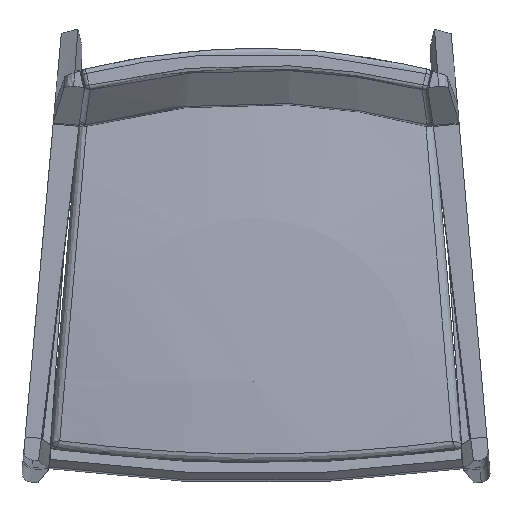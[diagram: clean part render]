
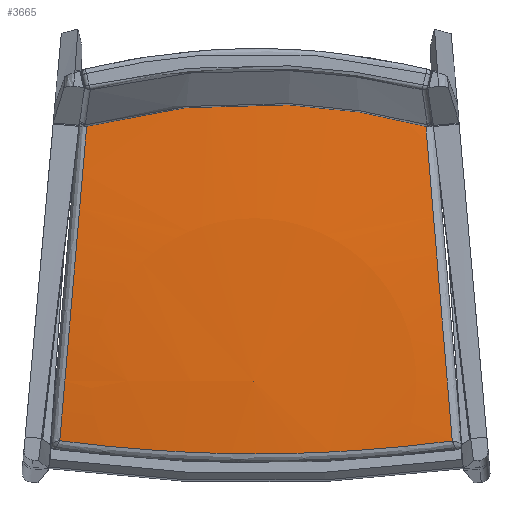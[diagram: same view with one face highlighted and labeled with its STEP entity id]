
A CAD part, top view. The second image highlights one B-rep face of the part: STEP entity #3665.
In plain terms, the highlighted spherical face has radius 3039.64 mm.
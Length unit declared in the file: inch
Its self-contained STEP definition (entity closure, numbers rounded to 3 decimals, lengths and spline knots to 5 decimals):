
#15=SPHERICAL_SURFACE('',#3931,119.67089);
#38=CIRCLE('',#3932,119.67089);
#351=B_SPLINE_CURVE_WITH_KNOTS('',3,(#6487,#6488,#6489,#6490,#6491),
 .UNSPECIFIED.,.F.,.F.,(4,1,4),(0.43653,9.22132,10.57898),
 .UNSPECIFIED.);
#352=B_SPLINE_CURVE_WITH_KNOTS('',3,(#6493,#6494,#6495,#6496),
 .UNSPECIFIED.,.F.,.F.,(4,4),(0.32272,17.71626),
 .UNSPECIFIED.);
#353=B_SPLINE_CURVE_WITH_KNOTS('',3,(#6498,#6499,#6500,#6501,#6502,#6503,
#6504),.UNSPECIFIED.,.F.,.F.,(4,3,4),(-0.00002,4.40806,
8.72227),.UNSPECIFIED.);
#354=B_SPLINE_CURVE_WITH_KNOTS('',3,(#6506,#6507,#6508,#6509),
 .UNSPECIFIED.,.F.,.F.,(4,4),(0.33312,9.05583),
 .UNSPECIFIED.);
#355=B_SPLINE_CURVE_WITH_KNOTS('',3,(#6511,#6512,#6513,#6514),
 .UNSPECIFIED.,.F.,.F.,(4,4),(3.52629,17.84243),
 .UNSPECIFIED.);
#356=B_SPLINE_CURVE_WITH_KNOTS('',3,(#6518,#6519,#6520,#6521),
 .UNSPECIFIED.,.F.,.F.,(4,4),(0.4418,3.52629),
 .UNSPECIFIED.);
#357=B_SPLINE_CURVE_WITH_KNOTS('',3,(#6522,#6523,#6524,#6525,#6526),
 .UNSPECIFIED.,.F.,.F.,(4,1,4),(10.57898,16.30421,20.7211),
 .UNSPECIFIED.);
#669=FACE_OUTER_BOUND('',#908,.T.);
#908=EDGE_LOOP('',(#2832,#2833,#2834,#2835,#2836,#2837,#2838,#2839,#2840));
#1613=VERTEX_POINT('',#6485);
#1614=VERTEX_POINT('',#6486);
#1615=VERTEX_POINT('',#6492);
#1616=VERTEX_POINT('',#6497);
#1617=VERTEX_POINT('',#6505);
#1618=VERTEX_POINT('',#6510);
#1619=VERTEX_POINT('',#6515);
#1620=VERTEX_POINT('',#6517);
#2054=EDGE_CURVE('',#1613,#1614,#351,.T.);
#2055=EDGE_CURVE('',#1615,#1613,#352,.T.);
#2056=EDGE_CURVE('',#1616,#1615,#353,.T.);
#2057=EDGE_CURVE('',#1617,#1616,#354,.T.);
#2058=EDGE_CURVE('',#1618,#1617,#355,.T.);
#2059=EDGE_CURVE('',#1619,#1618,#38,.T.);
#2060=EDGE_CURVE('',#1620,#1618,#356,.T.);
#2061=EDGE_CURVE('',#1614,#1620,#357,.T.);
#2832=ORIENTED_EDGE('',*,*,#2054,.F.);
#2833=ORIENTED_EDGE('',*,*,#2055,.F.);
#2834=ORIENTED_EDGE('',*,*,#2056,.F.);
#2835=ORIENTED_EDGE('',*,*,#2057,.F.);
#2836=ORIENTED_EDGE('',*,*,#2058,.F.);
#2837=ORIENTED_EDGE('',*,*,#2059,.F.);
#2838=ORIENTED_EDGE('',*,*,#2059,.T.);
#2839=ORIENTED_EDGE('',*,*,#2060,.F.);
#2840=ORIENTED_EDGE('',*,*,#2061,.F.);
#3665=ADVANCED_FACE('',(#669),#15,.T.);
#3931=AXIS2_PLACEMENT_3D('',#6484,#4375,#4376);
#3932=AXIS2_PLACEMENT_3D('',#6516,#4377,#4378);
#4375=DIRECTION('center_axis',(0.,0.,1.));
#4376=DIRECTION('ref_axis',(1.,0.,0.));
#4377=DIRECTION('center_axis',(0.,-1.,0.));
#4378=DIRECTION('ref_axis',(-1.,0.,0.));
#6484=CARTESIAN_POINT('Origin',(-0.15354,5.24651,-102.05401));
#6485=CARTESIAN_POINT('',(10.12115,2.14784,17.13472));
#6486=CARTESIAN_POINT('',(-0.02323,1.48608,17.55772));
#6487=CARTESIAN_POINT('Ctrl Pts',(10.1211,2.14795,17.13472));
#6488=CARTESIAN_POINT('Ctrl Pts',(7.21559,1.76513,17.37528));
#6489=CARTESIAN_POINT('Ctrl Pts',(3.82613,1.51348,17.53506));
#6490=CARTESIAN_POINT('Ctrl Pts',(0.43121,1.48578,17.55722));
#6491=CARTESIAN_POINT('Ctrl Pts',(-0.02323,1.48608,
17.55772));
#6492=CARTESIAN_POINT('',(8.66814,19.52429,16.4342));
#6493=CARTESIAN_POINT('Ctrl Pts',(8.66778,19.52372,16.43426));
#6494=CARTESIAN_POINT('Ctrl Pts',(9.15092,13.75928,17.09301));
#6495=CARTESIAN_POINT('Ctrl Pts',(9.63745,7.94669,17.32733));
#6496=CARTESIAN_POINT('Ctrl Pts',(10.12151,2.14798,17.1347));
#6497=CARTESIAN_POINT('',(-0.00484,20.57364,16.6312));
#6498=CARTESIAN_POINT('Ctrl Pts',(-0.00484,20.57364,
16.6312));
#6499=CARTESIAN_POINT('Ctrl Pts',(1.4707,20.57234,16.62958));
#6500=CARTESIAN_POINT('Ctrl Pts',(2.94608,20.48144,16.61184));
#6501=CARTESIAN_POINT('Ctrl Pts',(4.4104,20.30229,16.57824));
#6502=CARTESIAN_POINT('Ctrl Pts',(5.84354,20.12696,16.54536));
#6503=CARTESIAN_POINT('Ctrl Pts',(7.26609,19.8671,16.49728));
#6504=CARTESIAN_POINT('Ctrl Pts',(8.66783,19.52393,16.43423));
#6505=CARTESIAN_POINT('',(-8.67945,19.5415,16.45375));
#6506=CARTESIAN_POINT('Ctrl Pts',(-8.67919,19.54155,16.45375));
#6507=CARTESIAN_POINT('Ctrl Pts',(-5.84434,20.22953,16.57478));
#6508=CARTESIAN_POINT('Ctrl Pts',(-2.92449,20.57701,16.63455));
#6509=CARTESIAN_POINT('Ctrl Pts',(-0.00484,20.57364,
16.6312));
#6510=CARTESIAN_POINT('',(-9.90379,5.24651,17.21904));
#6511=CARTESIAN_POINT('Ctrl Pts',(-9.90379,5.24651,17.21904));
#6512=CARTESIAN_POINT('Ctrl Pts',(-9.4958,10.02114,17.25235));
#6513=CARTESIAN_POINT('Ctrl Pts',(-9.08678,14.79758,16.99678));
#6514=CARTESIAN_POINT('Ctrl Pts',(-8.67968,19.54132,16.45374));
#6515=CARTESIAN_POINT('',(-0.15354,5.24651,17.61688));
#6516=CARTESIAN_POINT('Origin',(-0.15354,5.24651,-102.05401));
#6517=CARTESIAN_POINT('',(-10.16733,2.16095,17.15725));
#6518=CARTESIAN_POINT('Ctrl Pts',(-10.16733,2.16095,17.15726));
#6519=CARTESIAN_POINT('Ctrl Pts',(-10.07955,3.18916,17.19128));
#6520=CARTESIAN_POINT('Ctrl Pts',(-9.99169,4.21779,17.21186));
#6521=CARTESIAN_POINT('Ctrl Pts',(-9.90379,5.24651,17.21904));
#6522=CARTESIAN_POINT('Ctrl Pts',(-0.02323,1.48608,
17.55772));
#6523=CARTESIAN_POINT('Ctrl Pts',(-1.93961,1.48735,17.55983));
#6524=CARTESIAN_POINT('Ctrl Pts',(-5.33444,1.61585,17.48595));
#6525=CARTESIAN_POINT('Ctrl Pts',(-8.7064,1.96678,17.27494));
#6526=CARTESIAN_POINT('Ctrl Pts',(-10.16733,2.16095,17.15725));
